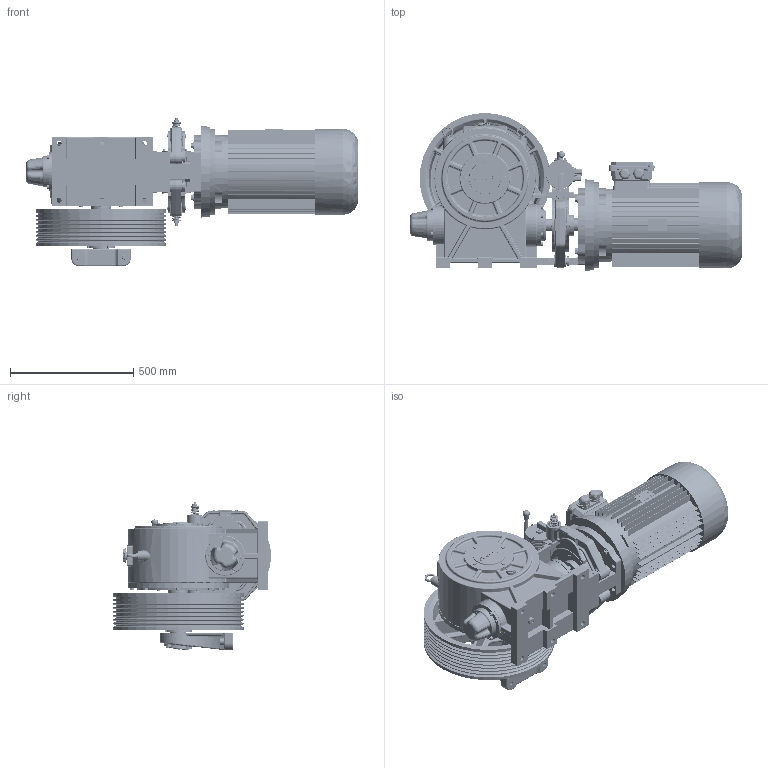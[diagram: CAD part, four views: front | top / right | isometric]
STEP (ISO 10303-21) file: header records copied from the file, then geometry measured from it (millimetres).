
FILE_DESCRIPTION (( 'STEP AP214' ), '1' );
FILE_NAME ('FC22200.STEP', '2024-04-18T12:58:49', ( '' ), ( '' ), 'SwSTEP 2.0', 'SolidWorks 2022', '' );
FILE_SCHEMA (( 'AUTOMOTIVE_DESIGN' ));
Length unit declared in the file: millimetre
Products named in the file (1): FC22200
Bounding box: 1345 x 640.69 x 600.79 mm (x, y, z)
Volume: 104833525.1 mm3; surface area: 7733853.9 mm2
Topology: 162 solids, 168 shells, 9445 faces, 22962 edges, 13972 vertices
Faces by surface type: cylinder 3357, plane 2422, bspline 1429, cone 1005, torus 953, sphere 279
Entity records: 614748 total; most frequent: CARTESIAN_POINT 306394, ORIENTED_EDGE 45374, DIRECTION 38945, EDGE_CURVE 22687, AXIS2_PLACEMENT_3D 15465, VERTEX_POINT 13962, EDGE_LOOP 10179, UNCERTAINTY_MEASURE_WITH_UNIT 9609
